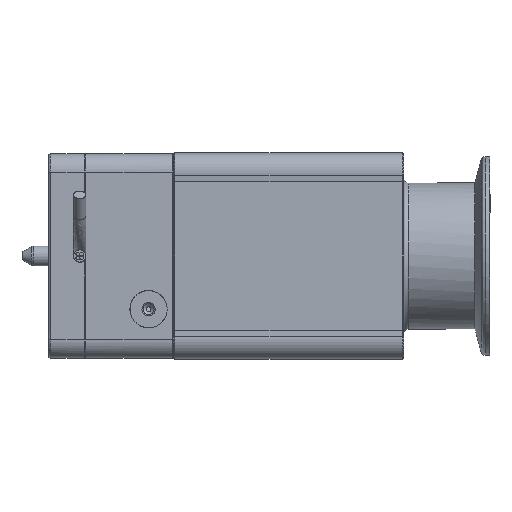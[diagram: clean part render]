
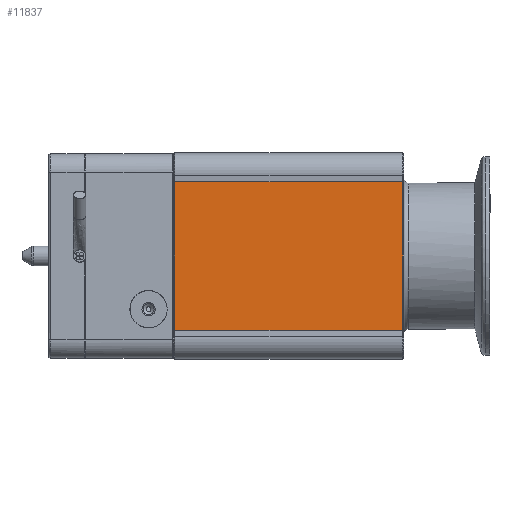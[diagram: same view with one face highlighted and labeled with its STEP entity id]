
A CAD part, left-side view. The second image highlights one B-rep face of the part: STEP entity #11837.
In plain terms, the highlighted free-form (B-spline) face has degree [1, 1] with [2, 2] control points.
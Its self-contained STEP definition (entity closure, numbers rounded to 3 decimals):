
#8252=CARTESIAN_POINT('V142',(-38.5,0.4,
   27.938));
#8253=VERTEX_POINT('V142',#8252);
#8296=CARTESIAN_POINT('V140',(-38.5,0.4,
   -27.938));
#8297=VERTEX_POINT('V140',#8296);
#8303=CARTESIAN_POINT('E242',(-38.5,0.4,
   -27.938));
#8304=CARTESIAN_POINT('E242',(-38.5,0.4,
   27.938));
#8305=B_SPLINE_CURVE_WITH_KNOTS('E242',1,(#8303,#8304),
   .POLYLINE_FORM.,.F.,.U.,(2,2),(2.0,100.775),
   .UNSPECIFIED.);
#8306=EDGE_CURVE('E242',#8297,#8253,#8305,.T.);
#8902=CARTESIAN_POINT('V106',(-38.5,86.1,
   -27.938));
#8903=VERTEX_POINT('V106',#8902);
#8946=CARTESIAN_POINT('V104',(-38.5,86.1,
   27.938));
#8947=VERTEX_POINT('V104',#8946);
#8953=CARTESIAN_POINT('E168',(-38.5,86.1,
   27.938));
#8954=CARTESIAN_POINT('E168',(-38.5,86.1,
   -27.938));
#8955=B_SPLINE_CURVE_WITH_KNOTS('E168',1,(#8953,#8954),
   .POLYLINE_FORM.,.F.,.U.,(2,2),(2.0,100.775),
   .UNSPECIFIED.);
#8956=EDGE_CURVE('E168',#8947,#8903,#8955,.T.);
#11814=CARTESIAN_POINT('E37',(-38.5,0.4,
   -27.938));
#11815=CARTESIAN_POINT('E37',(-38.5,86.1,
   -27.938));
#11816=B_SPLINE_CURVE_WITH_KNOTS('E37',1,(#11814,#11815),
   .POLYLINE_FORM.,.F.,.U.,(2,2),(0.17,
   36.514),.UNSPECIFIED.);
#11817=EDGE_CURVE('E37',#8297,#8903,#11816,.T.);
#11822=CARTESIAN_POINT('F13',(-38.5,0.0,
   -27.938));
#11823=CARTESIAN_POINT('F13',(-38.5,0.0,
   27.938));
#11824=CARTESIAN_POINT('F13',(-38.5,90.0,
   -27.938));
#11825=CARTESIAN_POINT('F13',(-38.5,90.0,
   27.938));
#11826=B_SPLINE_SURFACE_WITH_KNOTS('F13',1,1,((#11822,#11824),(
   #11823,#11825)),.PLANE_SURF.,.F.,.F.,.U.,(2,2),(2,2),(0.0,1.0),
   (0.0,1.611),.UNSPECIFIED.);
#11827=ORIENTED_EDGE('E242',*,*,#8306,.F.);
#11828=ORIENTED_EDGE('F12',*,*,#11817,.T.);
#11829=ORIENTED_EDGE('E168',*,*,#8956,.F.);
#11830=CARTESIAN_POINT('E40',(-38.5,0.4,
   27.938));
#11831=CARTESIAN_POINT('E40',(-38.5,86.1,
   27.938));
#11832=B_SPLINE_CURVE_WITH_KNOTS('E40',1,(#11830,#11831),
   .POLYLINE_FORM.,.F.,.U.,(2,2),(0.007,
   1.541),.UNSPECIFIED.);
#11833=EDGE_CURVE('E40',#8253,#8947,#11832,.T.);
#11834=ORIENTED_EDGE('E40',*,*,#11833,.F.);
#11835=EDGE_LOOP('F13',(#11827,#11828,#11829,#11834));
#11836=FACE_OUTER_BOUND('F13',#11835,.F.);
#11837=ADVANCED_FACE('F13',(#11836),#11826,.T.);
